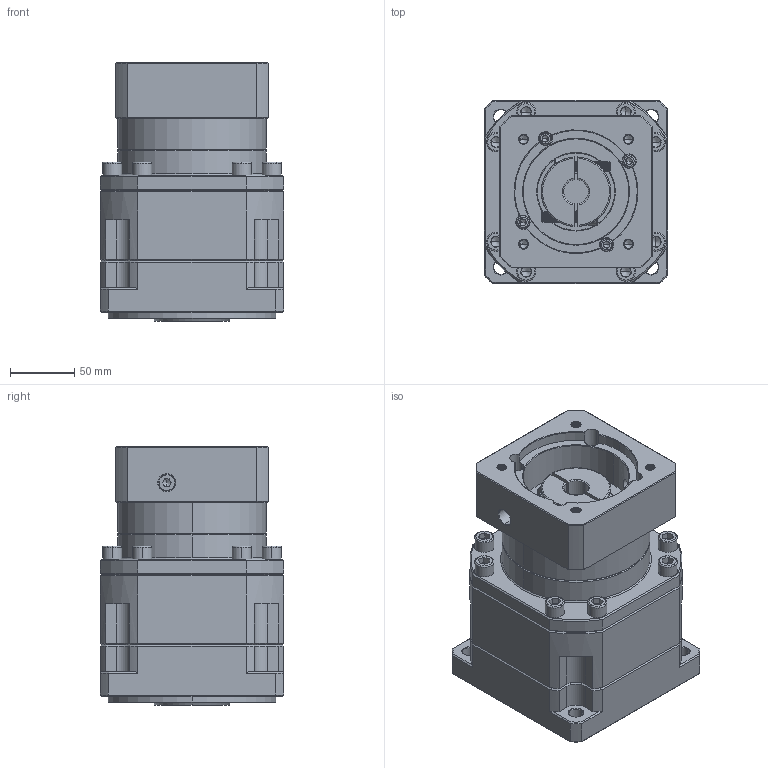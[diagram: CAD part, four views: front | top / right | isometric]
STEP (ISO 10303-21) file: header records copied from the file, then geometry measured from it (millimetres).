
FILE_DESCRIPTION (( 'STEP AP214' ), '1' );
FILE_NAME ('ZB142A-K35-L2-P2-19-95-115-M8.step', '2023-09-02T02:53:19', ( '' ), ( '' ), 'SwSTEP 2.0', 'SolidWorks 2016', '' );
FILE_SCHEMA (( 'AUTOMOTIVE_DESIGN' ));
Length unit declared in the file: millimetre
Products named in the file (1): ZB142A-K35-L2-P2-19-95-115-M8
Bounding box: 142 x 142 x 200.7 mm (x, y, z)
Volume: 2802659.3 mm3; surface area: 233266.7 mm2
Topology: 6 solids, 6 shells, 2507 faces, 6595 edges, 4209 vertices
Faces by surface type: plane 1198, cylinder 460, bspline 418, cone 395, torus 36
Entity records: 130157 total; most frequent: CARTESIAN_POINT 43844, ORIENTED_EDGE 13086, DIRECTION 10743, EDGE_CURVE 6543, VERTEX_POINT 4209, LINE 4163, VECTOR 4163, AXIS2_PLACEMENT_3D 3290
